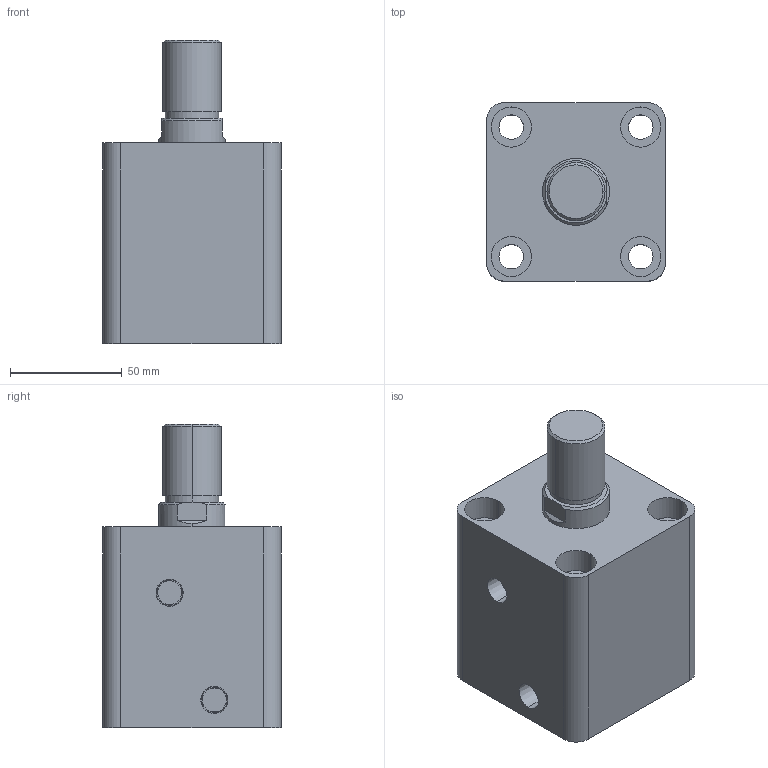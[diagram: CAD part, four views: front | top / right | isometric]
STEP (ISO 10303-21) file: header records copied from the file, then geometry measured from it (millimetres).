
FILE_DESCRIPTION (( 'STEP AP203' ), '1' );
FILE_NAME ('HTB-SD50-30W.STEP', '2019-10-07T07:08:00', ( '微软用户' ), ( '微软中国' ), 'SwSTEP 2.0', 'SolidWorks 2012', '' );
FILE_SCHEMA (( 'CONFIG_CONTROL_DESIGN' ));
Length unit declared in the file: millimetre
Products named in the file (3): HTB-SD50-30W; HTB-SD50-30W活塞杆; HTB-SD50-30掛极
Assembly tree (2 placements, depth 2):
  HTB-SD50-30W
    HTB-SD50-30掛极
    HTB-SD50-30W活塞杆
Bounding box: 80 x 80 x 136 mm (x, y, z)
Volume: 508518.8 mm3; surface area: 84388 mm2
Topology: 2 solids, 2 shells, 87 faces, 190 edges, 124 vertices
Faces by surface type: cylinder 44, plane 29, cone 8, torus 6
Entity records: 2761 total; most frequent: DIRECTION 478, CARTESIAN_POINT 434, ORIENTED_EDGE 380, AXIS2_PLACEMENT_3D 204, EDGE_CURVE 190, VERTEX_POINT 124, CIRCLE 112, EDGE_LOOP 112
